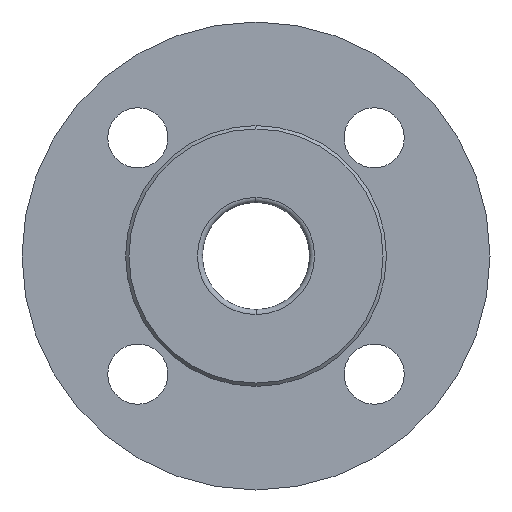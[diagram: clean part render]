
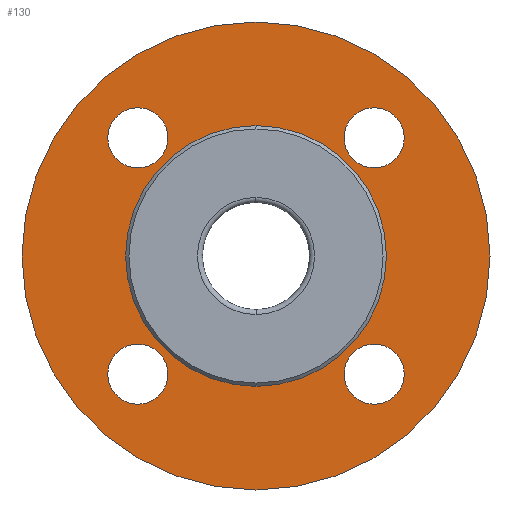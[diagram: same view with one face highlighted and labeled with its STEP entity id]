
A CAD part, left-side view. The second image highlights one B-rep face of the part: STEP entity #130.
In plain terms, the highlighted planar face has unit normal (-1, 0, 0).
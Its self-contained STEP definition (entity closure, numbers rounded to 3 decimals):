
#6 = VERTEX_POINT ( 'NONE', #167 ) ;
#7 = VERTEX_POINT ( 'NONE', #169 ) ;
#30 = VERTEX_POINT ( 'NONE', #247 ) ;
#49 = EDGE_CURVE ( 'NONE', #6, #30, #209, .T. ) ;
#60 = EDGE_CURVE ( 'NONE', #63, #7, #342, .T. ) ;
#63 = VERTEX_POINT ( 'NONE', #337 ) ;
#82 = EDGE_CURVE ( 'NONE', #96, #94, #269, .T. ) ;
#85 = EDGE_CURVE ( 'NONE', #102, #124, #363, .T. ) ;
#94 = VERTEX_POINT ( 'NONE', #391 ) ;
#96 = VERTEX_POINT ( 'NONE', #382 ) ;
#102 = VERTEX_POINT ( 'NONE', #398 ) ;
#117 = EDGE_CURVE ( 'NONE', #124, #102, #426, .T. ) ;
#124 = VERTEX_POINT ( 'NONE', #385 ) ;
#126 = ORIENTED_EDGE ( 'NONE', *, *, #127, .T. ) ;
#127 = EDGE_CURVE ( 'NONE', #7, #63, #333, .T. ) ;
#128 = ORIENTED_EDGE ( 'NONE', *, *, #143, .T. ) ;
#129 = EDGE_CURVE ( 'NONE', #30, #6, #404, .T. ) ;
#130 = ADVANCED_FACE ( 'NONE', ( #450, #462, #456, #453, #466, #454 ), #455, .F. ) ;
#133 = EDGE_LOOP ( 'NONE', ( #134, #136 ) ) ;
#134 = ORIENTED_EDGE ( 'NONE', *, *, #49, .T. ) ;
#136 = ORIENTED_EDGE ( 'NONE', *, *, #129, .T. ) ;
#139 = ORIENTED_EDGE ( 'NONE', *, *, #60, .T. ) ;
#140 = EDGE_LOOP ( 'NONE', ( #139, #126 ) ) ;
#141 = ORIENTED_EDGE ( 'NONE', *, *, #1592, .T. ) ;
#143 = EDGE_CURVE ( 'NONE', #1589, #1590, #366, .T. ) ;
#151 = EDGE_LOOP ( 'NONE', ( #162, #159 ) ) ;
#159 = ORIENTED_EDGE ( 'NONE', *, *, #1487, .T. ) ;
#162 = ORIENTED_EDGE ( 'NONE', *, *, #1662, .T. ) ;
#167 = CARTESIAN_POINT ( 'NONE',  ( -41.5, 35.355, 44.355 ) ) ;
#169 = CARTESIAN_POINT ( 'NONE',  ( -41.5, -35.355, 26.355 ) ) ;
#207 = CARTESIAN_POINT ( 'NONE',  ( -41.5, 35.355, 35.355 ) ) ;
#208 = AXIS2_PLACEMENT_3D ( 'NONE', #207, #213, #212 ) ;
#209 = CIRCLE ( 'NONE', #208, 9. ) ;
#212 = DIRECTION ( 'NONE',  ( 0., 0., -1. ) ) ;
#213 = DIRECTION ( 'NONE',  ( 1., 0., 0. ) ) ;
#247 = CARTESIAN_POINT ( 'NONE',  ( -41.5, 35.355, 26.355 ) ) ;
#269 = CIRCLE ( 'NONE', #277, 70. ) ;
#277 = AXIS2_PLACEMENT_3D ( 'NONE', #285, #282, #281 ) ;
#279 = CARTESIAN_POINT ( 'NONE',  ( -41.5, 35.355, 35.355 ) ) ;
#280 = AXIS2_PLACEMENT_3D ( 'NONE', #279, #286, #288 ) ;
#281 = DIRECTION ( 'NONE',  ( 0., 0., 1. ) ) ;
#282 = DIRECTION ( 'NONE',  ( -1., 0., 0. ) ) ;
#285 = CARTESIAN_POINT ( 'NONE',  ( -41.5, 0., 0. ) ) ;
#286 = DIRECTION ( 'NONE',  ( 1., 0., 0. ) ) ;
#288 = DIRECTION ( 'NONE',  ( 0., 0., -1. ) ) ;
#302 = AXIS2_PLACEMENT_3D ( 'NONE', #310, #332, #316 ) ;
#310 = CARTESIAN_POINT ( 'NONE',  ( -41.5, -35.355, 35.355 ) ) ;
#316 = DIRECTION ( 'NONE',  ( 0., 0., -1. ) ) ;
#320 = AXIS2_PLACEMENT_3D ( 'NONE', #330, #325, #324 ) ;
#324 = DIRECTION ( 'NONE',  ( 0., 0., -1. ) ) ;
#325 = DIRECTION ( 'NONE',  ( 1., 0., 0. ) ) ;
#330 = CARTESIAN_POINT ( 'NONE',  ( -41.5, -35.355, 35.355 ) ) ;
#332 = DIRECTION ( 'NONE',  ( 1., 0., 0. ) ) ;
#333 = CIRCLE ( 'NONE', #320, 9. ) ;
#337 = CARTESIAN_POINT ( 'NONE',  ( -41.5, -35.355, 44.355 ) ) ;
#342 = CIRCLE ( 'NONE', #302, 9. ) ;
#353 = DIRECTION ( 'NONE',  ( 1., 0., 0. ) ) ;
#355 = CARTESIAN_POINT ( 'NONE',  ( -41.5, 0., 0. ) ) ;
#363 = CIRCLE ( 'NONE', #372, 39. ) ;
#365 = CARTESIAN_POINT ( 'NONE',  ( -41.5, -35.355, -35.355 ) ) ;
#366 = CIRCLE ( 'NONE', #371, 9. ) ;
#368 = DIRECTION ( 'NONE',  ( 0., 0., -1. ) ) ;
#371 = AXIS2_PLACEMENT_3D ( 'NONE', #365, #353, #368 ) ;
#372 = AXIS2_PLACEMENT_3D ( 'NONE', #355, #377, #376 ) ;
#376 = DIRECTION ( 'NONE',  ( 0., 0., 1. ) ) ;
#377 = DIRECTION ( 'NONE',  ( -1., 0., 0. ) ) ;
#382 = CARTESIAN_POINT ( 'NONE',  ( -41.5, 0., 70. ) ) ;
#385 = CARTESIAN_POINT ( 'NONE',  ( -41.5, 0., -39. ) ) ;
#391 = CARTESIAN_POINT ( 'NONE',  ( -41.5, 0., -70. ) ) ;
#398 = CARTESIAN_POINT ( 'NONE',  ( -41.5, 0., 39. ) ) ;
#399 = DIRECTION ( 'NONE',  ( 0., 0., 1. ) ) ;
#400 = DIRECTION ( 'NONE',  ( -1., 0., 0. ) ) ;
#401 = CARTESIAN_POINT ( 'NONE',  ( -41.5, 0., 0. ) ) ;
#402 = AXIS2_PLACEMENT_3D ( 'NONE', #401, #400, #399 ) ;
#404 = CIRCLE ( 'NONE', #280, 9. ) ;
#426 = CIRCLE ( 'NONE', #402, 39. ) ;
#450 = FACE_BOUND ( 'NONE', #133, .T. ) ;
#453 = FACE_BOUND ( 'NONE', #151, .T. ) ;
#454 = FACE_OUTER_BOUND ( 'NONE', #1457, .T. ) ;
#455 = PLANE ( 'NONE',  #457 ) ;
#456 = FACE_BOUND ( 'NONE', #1599, .T. ) ;
#457 = AXIS2_PLACEMENT_3D ( 'NONE', #469, #465, #460 ) ;
#460 = DIRECTION ( 'NONE',  ( 0., 0., -1. ) ) ;
#462 = FACE_BOUND ( 'NONE', #140, .T. ) ;
#465 = DIRECTION ( 'NONE',  ( 1., 0., 0. ) ) ;
#466 = FACE_BOUND ( 'NONE', #1458, .T. ) ;
#469 = CARTESIAN_POINT ( 'NONE',  ( -41.5, 39., 0. ) ) ;
#658 = DIRECTION ( 'NONE',  ( 0., 0., -1. ) ) ;
#659 = DIRECTION ( 'NONE',  ( 1., 0., 0. ) ) ;
#668 = CIRCLE ( 'NONE', #685, 9. ) ;
#685 = AXIS2_PLACEMENT_3D ( 'NONE', #697, #659, #658 ) ;
#697 = CARTESIAN_POINT ( 'NONE',  ( -41.5, 35.355, -35.355 ) ) ;
#1094 = CIRCLE ( 'NONE', #1106, 9. ) ;
#1095 = CIRCLE ( 'NONE', #1115, 70. ) ;
#1101 = DIRECTION ( 'NONE',  ( 0., 0., -1. ) ) ;
#1102 = DIRECTION ( 'NONE',  ( 1., 0., 0. ) ) ;
#1103 = CARTESIAN_POINT ( 'NONE',  ( -41.5, 35.355, -35.355 ) ) ;
#1106 = AXIS2_PLACEMENT_3D ( 'NONE', #1103, #1102, #1101 ) ;
#1112 = DIRECTION ( 'NONE',  ( 0., 0., 1. ) ) ;
#1113 = DIRECTION ( 'NONE',  ( -1., 0., 0. ) ) ;
#1114 = CARTESIAN_POINT ( 'NONE',  ( -41.5, 0., 0. ) ) ;
#1115 = AXIS2_PLACEMENT_3D ( 'NONE', #1114, #1113, #1112 ) ;
#1231 = CARTESIAN_POINT ( 'NONE',  ( -41.5, -35.355, -35.355 ) ) ;
#1232 = DIRECTION ( 'NONE',  ( 1., 0., 0. ) ) ;
#1233 = CIRCLE ( 'NONE', #1236, 9. ) ;
#1235 = DIRECTION ( 'NONE',  ( 0., 0., -1. ) ) ;
#1236 = AXIS2_PLACEMENT_3D ( 'NONE', #1231, #1232, #1235 ) ;
#1243 = CARTESIAN_POINT ( 'NONE',  ( -41.5, -35.355, -26.355 ) ) ;
#1244 = CARTESIAN_POINT ( 'NONE',  ( -41.5, -35.355, -44.355 ) ) ;
#1307 = CARTESIAN_POINT ( 'NONE',  ( -41.5, 35.355, -44.355 ) ) ;
#1319 = CARTESIAN_POINT ( 'NONE',  ( -41.5, 35.355, -26.355 ) ) ;
#1456 = ORIENTED_EDGE ( 'NONE', *, *, #117, .F. ) ;
#1457 = EDGE_LOOP ( 'NONE', ( #1486, #1468 ) ) ;
#1458 = EDGE_LOOP ( 'NONE', ( #1476, #1456 ) ) ;
#1468 = ORIENTED_EDGE ( 'NONE', *, *, #1498, .T. ) ;
#1476 = ORIENTED_EDGE ( 'NONE', *, *, #85, .F. ) ;
#1486 = ORIENTED_EDGE ( 'NONE', *, *, #82, .T. ) ;
#1487 = EDGE_CURVE ( 'NONE', #1637, #1639, #1094, .T. ) ;
#1498 = EDGE_CURVE ( 'NONE', #94, #96, #1095, .T. ) ;
#1589 = VERTEX_POINT ( 'NONE', #1244 ) ;
#1590 = VERTEX_POINT ( 'NONE', #1243 ) ;
#1592 = EDGE_CURVE ( 'NONE', #1590, #1589, #1233, .T. ) ;
#1599 = EDGE_LOOP ( 'NONE', ( #141, #128 ) ) ;
#1637 = VERTEX_POINT ( 'NONE', #1307 ) ;
#1639 = VERTEX_POINT ( 'NONE', #1319 ) ;
#1662 = EDGE_CURVE ( 'NONE', #1639, #1637, #668, .T. ) ;
